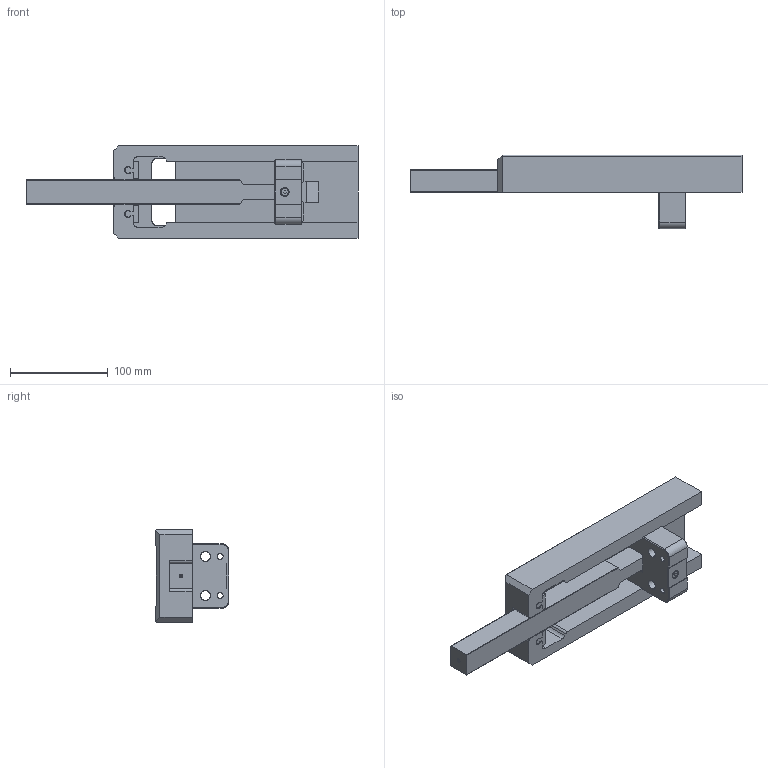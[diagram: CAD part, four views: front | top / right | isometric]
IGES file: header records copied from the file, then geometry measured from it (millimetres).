
Start section: SolidWorks IGES file using analytic representation for surfaces
Global section: file name: G:\CAD\Hakdrag\SA\SA-140\SA-140-250-30.igs; native system: SolidWorks 2015; preprocessor: SolidWorks 2015; author: ChBe; date: 150616.082545; units: millimetre
Bounding box: 340 x 75.6 x 95 mm (x, y, z)
Surface area: 128974.6 mm2 (no closed solid volume)
Topology: 0 solids, 0 shells, 160 faces, 1832 edges, 1832 vertices
Faces by surface type: bspline 99, revolution 61
